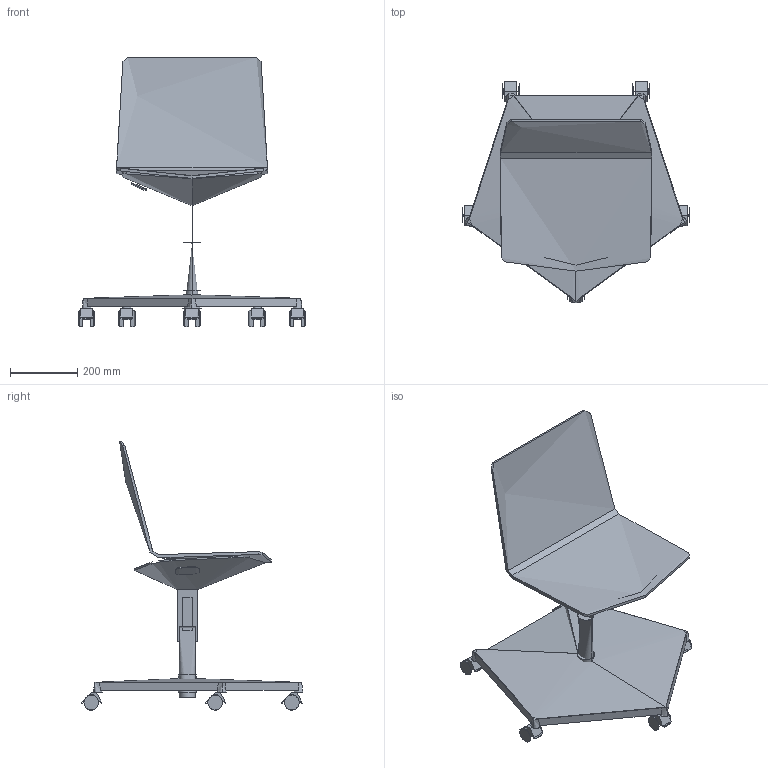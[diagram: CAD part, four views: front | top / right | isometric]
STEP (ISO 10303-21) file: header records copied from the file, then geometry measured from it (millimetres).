
FILE_DESCRIPTION(/* description */ (''),/* implementation_level */ '2;1');
FILE_NAME(/* name */ 'SKYFRE~1',/* time_stamp */ '2016-02-19T12:41:53+01:00',/* author */ (''),/* organization */ (''),/* preprocessor_version */ 'ST-DEVELOPER v15',/* originating_system */ '',/* authorisation */ '');
FILE_SCHEMA (('CONFIG_CONTROL_DESIGN'));
Length unit declared in the file: millimetre
Products named in the file (1): Document
Bounding box: 677.7 x 659.52 x 803.23 mm (x, y, z)
Volume: 3166054.7 mm3; surface area: 1184340.5 mm2
Topology: 6 solids, 28 shells, 216 faces, 527 edges, 341 vertices
Faces by surface type: bspline 177, plane 39
Entity records: 12742 total; most frequent: CARTESIAN_POINT 9727, ORIENTED_EDGE 959, EDGE_CURVE 524, VERTEX_POINT 339, B_SPLINE_CURVE_WITH_KNOTS 223, ADVANCED_FACE 216, FACE_OUTER_BOUND 216, EDGE_LOOP 216
